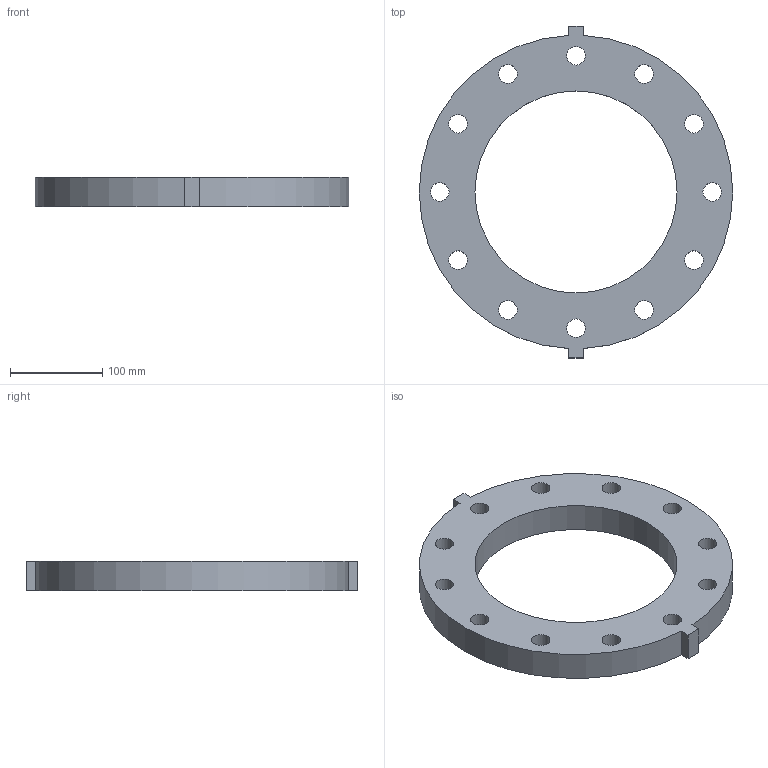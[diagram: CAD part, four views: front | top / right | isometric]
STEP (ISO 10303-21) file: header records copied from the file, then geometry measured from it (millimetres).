
FILE_DESCRIPTION(/* description */ ('VIC FLANGE ADAPTER STYLE 741 PN16 Flanges','CAx-IF Rec.Pracs.---Representation and Presentation of Product Manufacturing Information (PMI)---4.0---2014-10-13'),/* implementation_level */ '2;1');
FILE_NAME(/* name */ 'C:\Users\kkamble\AppData\Roaming\Autodesk\ApplicationPlugins\Back Up\Victaulic_IPS_Flange Adapter_PN16_Style 741 (OGSxFLG)\Victaulic_IPS_Flange Adapter_PN16_Style 741 (OGSxFLG)_8 (200).stp',/* time_stamp */ '2020-07-24T08:16:53+06:00',/* author */ ('jheald'),/* organization */ ('Victaulic'),/* preprocessor_version */ 'ST-DEVELOPER v17.2',/* originating_system */ 'Autodesk Inventor 2019',/* authorisation */ '');
FILE_SCHEMA (('AP242_MANAGED_MODEL_BASED_3D_ENGINEERING_MIM_LF { 1 0 10303 442 1 1 4 }'));
Length unit declared in the file: inch
Products named in the file (1): 741-08.0
Bounding box: 339.85 x 359.92 x 31.75 mm (x, y, z)
Volume: 1573281.8 mm3; surface area: 180171.3 mm2
Topology: 1 solids, 1 shells, 23 faces, 63 edges, 42 vertices
Faces by surface type: cylinder 15, plane 8
Full cylindrical faces by diameter (mm): 20.066 x12, 219.075 x1
Entity records: 863 total; most frequent: DIRECTION 141, CARTESIAN_POINT 129, ORIENTED_EDGE 126, EDGE_CURVE 63, AXIS2_PLACEMENT_3D 54, EDGE_LOOP 49, VERTEX_POINT 42, LINE 33
